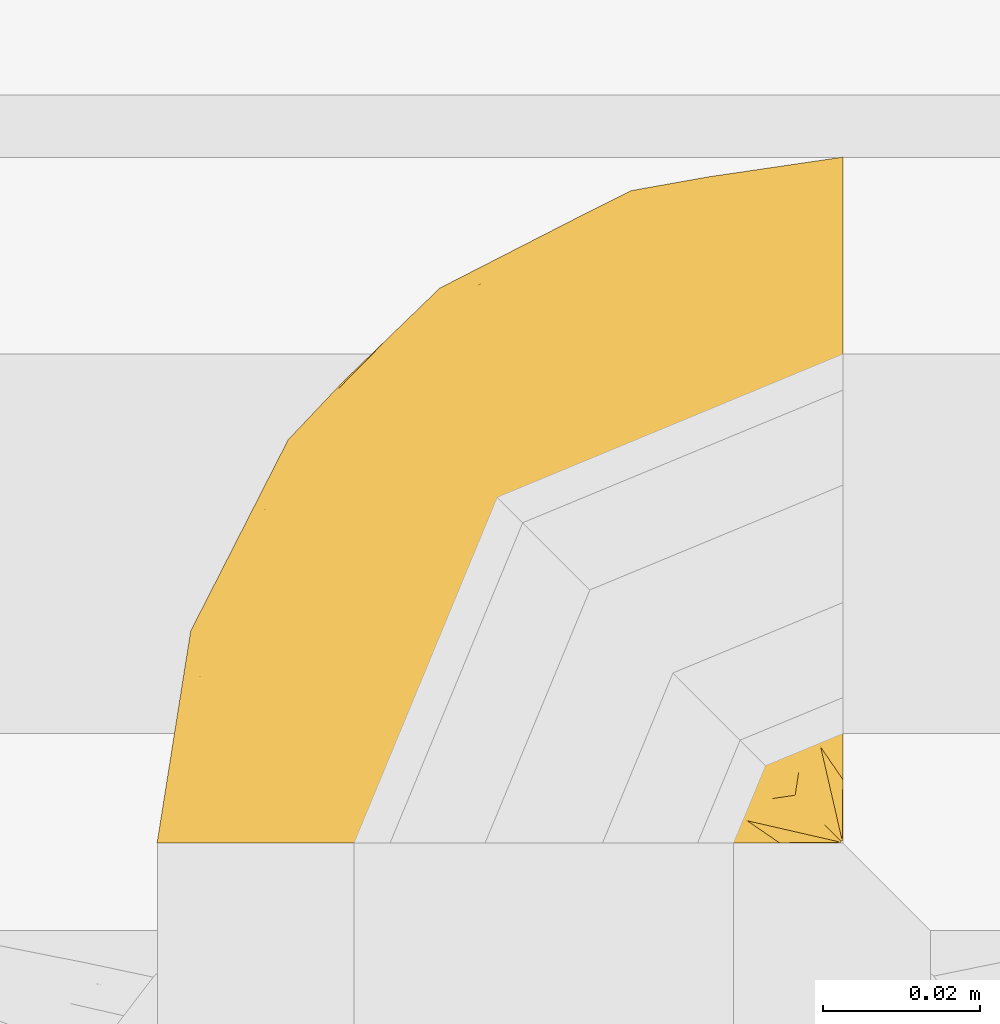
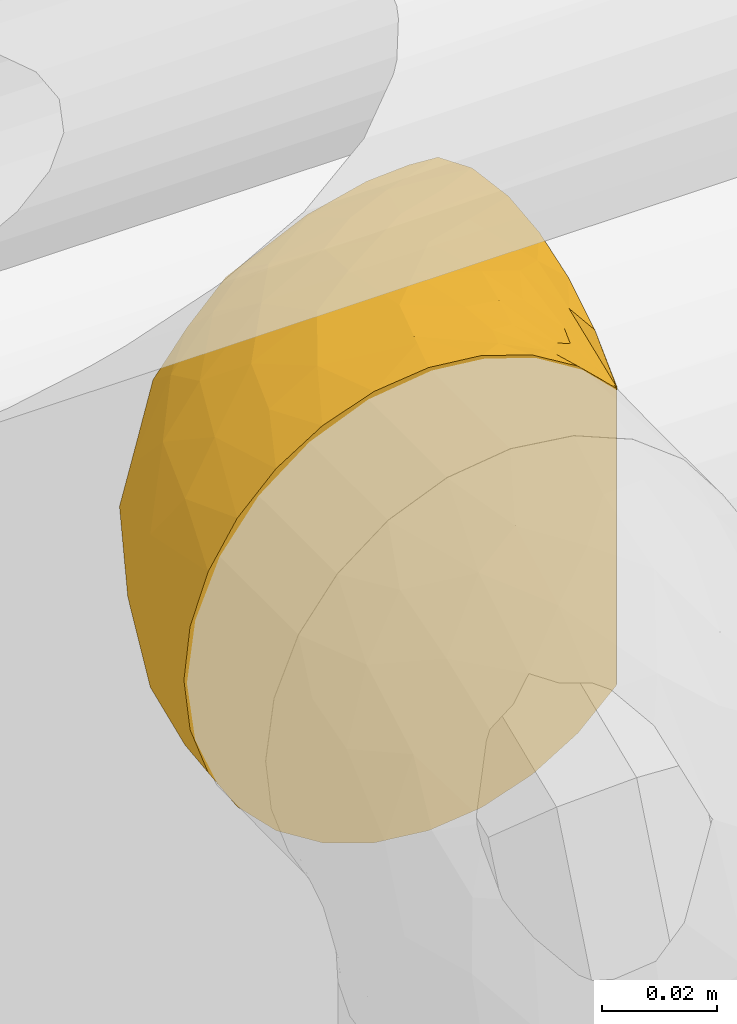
# One storey, part 46 of 94: 1 covering.
"""IFC2X3 building model written with IfcOpenShell, lengths in millimetres."""

import ifcopenshell
import ifcopenshell.guid

model = None  # the IFC model being written
_history = None  # IfcOwnerHistory: only IFC2X3 demands one
_inside = {}  # id of a spatial element -> (the spatial element, [elements in it])
_under = {}  # id of a project, library or spatial element -> (it, [spatial elements below it])
_declared = {}  # id of a project -> (the project, [libraries it declares])
_typed = {}  # id of a type object -> (the type object, [elements of that type])
_made_of = {}  # id of a material, layer set ... -> (it, [elements and type objects made of it])


def new_model(schema):
    """Start an empty IFC model of exactly this schema.

    Asked for "IFC4X3", IfcOpenShell would pick the latest addendum, in which some entities
    have other attributes; the version numbers below select the first issue.
    IFC2X3 requires an IfcOwnerHistory on every rooted entity: one is made here for all.
    """
    global model, _history
    if schema == "IFC4X3":
        model = ifcopenshell.file(schema_version=(4, 3, 0, 0))
    else:
        model = ifcopenshell.file(schema=schema)
    _inside.clear()
    _under.clear()
    _declared.clear()
    _typed.clear()
    _made_of.clear()
    _history = None
    if model.schema == "IFC2X3":
        org = make("IfcOrganization", Name="unknown")
        user = make(
            "IfcPersonAndOrganization",
            ThePerson=make("IfcPerson", FamilyName="unknown"),
            TheOrganization=org,
        )
        app = make(
            "IfcApplication",
            ApplicationDeveloper=org,
            Version="unknown",
            ApplicationFullName="unknown",
            ApplicationIdentifier="unknown",
        )
        _history = make(
            "IfcOwnerHistory",
            OwningUser=user,
            OwningApplication=app,
            ChangeAction="ADDED",
            CreationDate=0,
        )
    return model


def make(cls, **values):
    """One entity of the class cls with the attributes given. An attribute that is None is left unset."""
    return model.create_entity(
        cls, **{name: value for name, value in values.items() if value is not None}
    )


def entity(cls, *values):
    """Any entity or typed value of the class cls, its attributes in the order of the schema. None: left unset."""
    e = model.create_entity(cls)
    for i, value in enumerate(values):
        if value is not None:
            e[i] = value
    return e


def rooted(cls, **values):
    """An entity with a GlobalId (a new one), such as an element, a storey or a relation."""
    return make(cls, GlobalId=ifcopenshell.guid.new(), OwnerHistory=_history, **values)


def si_unit(unit_type, name, prefix=None):
    """IfcSIUnit, for example si_unit("LENGTHUNIT", "METRE", prefix="MILLI")."""
    return make("IfcSIUnit", UnitType=unit_type, Prefix=prefix, Name=name)


def converted_unit(unit_type, name, factor, base, dimensions=None, offset=None):
    """IfcConversionBasedUnit, such as the inch: factor (a typed value) times the base unit."""
    return make(
        "IfcConversionBasedUnit"
        if offset is None
        else "IfcConversionBasedUnitWithOffset",
        ConversionOffset=offset,
        Dimensions=None
        if dimensions is None
        else entity("IfcDimensionalExponents", *dimensions),
        UnitType=unit_type,
        Name=name,
        ConversionFactor=make(
            "IfcMeasureWithUnit", ValueComponent=factor, UnitComponent=base
        ),
    )


def derived_unit(unit_type, elements):
    """IfcDerivedUnit: a product of units, each with its exponent."""
    return make(
        "IfcDerivedUnit",
        Elements=[
            make("IfcDerivedUnitElement", Unit=unit, Exponent=power)
            for unit, power in elements
        ],
        UnitType=unit_type,
    )


def assignment(units):
    """IfcUnitAssignment: the units of a project."""
    return None if units is None else make("IfcUnitAssignment", Units=units)


def point(xyz):
    """IfcCartesianPoint."""
    return None if xyz is None else make("IfcCartesianPoint", Coordinates=xyz)


def direction(xyz):
    """IfcDirection."""
    return None if xyz is None else make("IfcDirection", DirectionRatios=xyz)


def frame(location, z_axis=None, x_axis=None):
    """IfcAxis2Placement3D, a coordinate frame: its origin and axes. An axis left out is left unset."""
    return make(
        "IfcAxis2Placement3D",
        Location=point(location),
        Axis=direction(z_axis),
        RefDirection=direction(x_axis),
    )


def origin():
    """The frame at (0, 0, 0) with its axes left unset."""
    return frame((0.0, 0.0, 0.0))


def place(relative_to, where):
    """IfcLocalPlacement: puts the frame where relative to a parent placement (None: the world)."""
    return make(
        "IfcLocalPlacement", PlacementRelTo=relative_to, RelativePlacement=where
    )


def context(
    kind, dimensions, precision=None, world=None, true_north=None, identifier=None
):
    """IfcGeometricRepresentationContext, for example the 3D "Model" context."""
    return make(
        "IfcGeometricRepresentationContext",
        ContextIdentifier=identifier,
        ContextType=kind,
        CoordinateSpaceDimension=dimensions,
        Precision=precision,
        WorldCoordinateSystem=world,
        TrueNorth=true_north,
    )


def subcontext(parent, identifier, kind, view, scale=None):
    """IfcGeometricRepresentationSubContext, for example "Body" below "Model"."""
    return make(
        "IfcGeometricRepresentationSubContext",
        ContextIdentifier=identifier,
        ContextType=kind,
        ParentContext=parent,
        TargetScale=scale,
        TargetView=view,
    )


def project(units=None, contexts=None):
    """IfcProject with its units and contexts."""
    return rooted(
        "IfcProject",
        Name="project",
        RepresentationContexts=contexts,
        UnitsInContext=assignment(units),
    )


def spatial(cls, under=None, at=None, **own):
    """A site, building, storey or space (cls), placed at a placement, below another one or the project."""
    s = rooted(cls, ObjectPlacement=at, **own)
    if under is not None:
        _under.setdefault(under.id(), (under, []))[1].append(s)
    return s


def faces_of(points, faces, orient=None, outer=None):
    """IfcFace entities. A face is a list of loops; a loop is a list of indices into points, from 0.

    orient and outer hold one flag for each loop. By default every Orientation is true, the
    first loop of a face is its IfcFaceOuterBound and the others are IfcFaceBound.
    """
    made = []
    for i, loops in enumerate(faces):
        bounds = []
        for j, loop in enumerate(loops):
            is_outer = j == 0 if outer is None else outer[i][j]
            bounds.append(
                make(
                    "IfcFaceOuterBound" if is_outer else "IfcFaceBound",
                    Bound=make("IfcPolyLoop", Polygon=[points[k] for k in loop]),
                    Orientation=True if orient is None else orient[i][j],
                )
            )
        made.append(make("IfcFace", Bounds=bounds))
    return made


def faceted_brep(points, faces, orient=None, outer=None, voids=None):
    """IfcFacetedBrep: a solid bounded by flat faces; with voids (closed shells), ...WithVoids."""
    shared = [point(p) for p in points]
    hull = make("IfcClosedShell", CfsFaces=faces_of(shared, faces, orient, outer))
    if voids is None:
        return make("IfcFacetedBrep", Outer=hull)
    return make(
        "IfcFacetedBrepWithVoids",
        Outer=hull,
        Voids=[
            make(cls, CfsFaces=faces_of(shared, fs, o, b)) for cls, fs, o, b in voids
        ],
    )


def shape(context_of_items, identifier, shape_type, items):
    """IfcShapeRepresentation: the items that make up one representation, for example the "Body"."""
    return make(
        "IfcShapeRepresentation",
        ContextOfItems=context_of_items,
        RepresentationIdentifier=identifier,
        RepresentationType=shape_type,
        Items=items,
    )


def material(Name=None, Category=None):
    """IfcMaterial."""
    return make("IfcMaterial", Name=Name, Category=Category)


def made_of(thing, what):
    """Note that an element or type object is made of a material, layer set ...; save() writes the relation."""
    if what is not None:
        _made_of.setdefault(what.id(), (what, []))[1].append(thing)
    return thing


def element(
    cls,
    number,
    at=None,
    inside=None,
    cuts=None,
    type_object=None,
    material=None,
    context=None,
    identifier="Body",
    shape_type=None,
    held_by="IfcProductDefinitionShape",
    body=None,
    shapes=None,
    **own,
):
    """One element of the class cls, such as IfcWall. Its Tag is "e" and its number.

    at: its placement. inside: the storey or other place that contains it. cuts: it is an
    opening in that element (IfcRelVoidsElement). A single representation is given by context,
    identifier, shape_type and body (its items); several are given by shapes. held_by: the class
    of the entity that holds the representations. save() writes the other relations.
    """
    e = rooted(cls, Tag="e%d" % number, ObjectPlacement=at, **own)
    if body is not None:
        shapes = [shape(context, identifier, shape_type, body)]
    if shapes is not None:
        e.Representation = make(held_by, Representations=shapes)
    if inside is not None:
        _inside.setdefault(inside.id(), (inside, []))[1].append(e)
    if cuts is not None:
        rooted(
            "IfcRelVoidsElement", RelatingBuildingElement=cuts, RelatedOpeningElement=e
        )
    if type_object is not None:
        _typed.setdefault(type_object.id(), (type_object, []))[1].append(e)
    return made_of(e, material)


def aggregate(whole, parts):
    """IfcRelAggregates: a whole, such as a stair, and the parts it consists of."""
    return rooted("IfcRelAggregates", RelatingObject=whole, RelatedObjects=parts)


def save(model, path):
    """Write the relations noted so far, then the file.

    IfcRelAggregates (storeys below a building ...), IfcRelContainedInSpatialStructure (elements
    in a storey), IfcRelDefinesByType, IfcRelAssociatesMaterial and IfcRelDeclares: one each for
    every whole, place, type object, material and project.
    """
    for whole, parts in _under.values():
        aggregate(whole, parts)
    for where, things in _inside.values():
        rooted(
            "IfcRelContainedInSpatialStructure",
            RelatedElements=things,
            RelatingStructure=where,
        )
    for kind, things in _typed.values():
        rooted("IfcRelDefinesByType", RelatedObjects=things, RelatingType=kind)
    for what, things in _made_of.values():
        rooted("IfcRelAssociatesMaterial", RelatedObjects=things, RelatingMaterial=what)
    for by, libraries in _declared.values():
        rooted("IfcRelDeclares", RelatingContext=by, RelatedDefinitions=libraries)
    model.write(path)


model = new_model("IFC2X3")

# Units and contexts
model_context = context("Model", 3, precision=0.01, world=origin(), true_north=direction((6.123031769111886e-17, 1.0)))
body_context = subcontext(model_context, "Body", "Model", "MODEL_VIEW")
ifc_project = project(units=[si_unit("LENGTHUNIT", "METRE", prefix="MILLI"), si_unit("AREAUNIT", "SQUARE_METRE"), si_unit("VOLUMEUNIT", "CUBIC_METRE"), converted_unit("PLANEANGLEUNIT", "DEGREE", entity("IfcRatioMeasure", 0.017453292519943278), si_unit("PLANEANGLEUNIT", "RADIAN"), dimensions=[0, 0, 0, 0, 0, 0, 0]), si_unit("MASSUNIT", "GRAM", prefix="KILO"), derived_unit("MASSDENSITYUNIT", [(si_unit("MASSUNIT", "GRAM", prefix="KILO"), 1), (si_unit("LENGTHUNIT", "METRE"), -3)]), derived_unit("IONCONCENTRATIONUNIT", [(si_unit("MASSUNIT", "GRAM", prefix="KILO"), 1), (si_unit("LENGTHUNIT", "METRE"), -3)]), derived_unit("MOMENTOFINERTIAUNIT", [(si_unit("LENGTHUNIT", "METRE"), 4)]), si_unit("TIMEUNIT", "SECOND"), si_unit("FREQUENCYUNIT", "HERTZ"), si_unit("THERMODYNAMICTEMPERATUREUNIT", "DEGREE_CELSIUS"), derived_unit("THERMALTRANSMITTANCEUNIT", [(si_unit("MASSUNIT", "GRAM", prefix="KILO"), 1), (si_unit("THERMODYNAMICTEMPERATUREUNIT", "KELVIN"), -1), (si_unit("TIMEUNIT", "SECOND"), -3)]), derived_unit("THERMALCONDUCTANCEUNIT", [(si_unit("MASSUNIT", "GRAM", prefix="KILO"), 1), (si_unit("THERMODYNAMICTEMPERATUREUNIT", "KELVIN"), -1), (si_unit("TIMEUNIT", "SECOND"), -3), (si_unit("LENGTHUNIT", "METRE"), 1)]), derived_unit("VOLUMETRICFLOWRATEUNIT", [(si_unit("LENGTHUNIT", "METRE"), 3), (si_unit("TIMEUNIT", "SECOND"), -1)]), derived_unit("MASSFLOWRATEUNIT", [(si_unit("MASSUNIT", "GRAM", prefix="KILO"), 1), (si_unit("TIMEUNIT", "SECOND"), -1)]), derived_unit("ROTATIONALFREQUENCYUNIT", [(si_unit("TIMEUNIT", "SECOND"), -1)]), si_unit("ELECTRICCURRENTUNIT", "AMPERE"), si_unit("ELECTRICVOLTAGEUNIT", "VOLT"), si_unit("POWERUNIT", "WATT"), si_unit("FORCEUNIT", "NEWTON", prefix="KILO"), si_unit("ILLUMINANCEUNIT", "LUX"), si_unit("LUMINOUSFLUXUNIT", "LUMEN"), si_unit("LUMINOUSINTENSITYUNIT", "CANDELA"), derived_unit("USERDEFINED", [(si_unit("MASSUNIT", "GRAM", prefix="KILO"), -1), (si_unit("LENGTHUNIT", "METRE"), -2), (si_unit("TIMEUNIT", "SECOND"), 3), (si_unit("LUMINOUSFLUXUNIT", "LUMEN"), 1)]), derived_unit("USERDEFINED", [(si_unit("MASSUNIT", "GRAM", prefix="KILO"), 1), (si_unit("TIMEUNIT", "SECOND"), -3), (si_unit("LENGTHUNIT", "METRE"), 3), (si_unit("ELECTRICCURRENTUNIT", "AMPERE"), -2)]), derived_unit("SOUNDPOWERUNIT", [(si_unit("MASSUNIT", "GRAM", prefix="KILO"), 1), (si_unit("TIMEUNIT", "SECOND"), -3), (si_unit("LENGTHUNIT", "METRE"), 2)]), derived_unit("SOUNDPRESSUREUNIT", [(si_unit("MASSUNIT", "GRAM", prefix="KILO"), 1), (si_unit("LENGTHUNIT", "METRE"), -1), (si_unit("TIMEUNIT", "SECOND"), -2)]), derived_unit("LINEARVELOCITYUNIT", [(si_unit("LENGTHUNIT", "METRE"), 1), (si_unit("TIMEUNIT", "SECOND"), -1)]), si_unit("PRESSUREUNIT", "PASCAL"), derived_unit("USERDEFINED", [(si_unit("MASSUNIT", "GRAM", prefix="KILO"), 1), (si_unit("LENGTHUNIT", "METRE"), -2), (si_unit("TIMEUNIT", "SECOND"), -2)]), derived_unit("LINEARFORCEUNIT", [(si_unit("MASSUNIT", "GRAM", prefix="KILO"), 1), (si_unit("TIMEUNIT", "SECOND"), -2)]), derived_unit("PLANARFORCEUNIT", [(si_unit("MASSUNIT", "GRAM", prefix="KILO"), 1), (si_unit("LENGTHUNIT", "METRE"), -1), (si_unit("TIMEUNIT", "SECOND"), -2)]), derived_unit("SPECIFICHEATCAPACITYUNIT", [(si_unit("THERMODYNAMICTEMPERATUREUNIT", "KELVIN"), -1), (si_unit("LENGTHUNIT", "METRE"), 2), (si_unit("TIMEUNIT", "SECOND"), -2)]), derived_unit("HEATINGVALUEUNIT", [(si_unit("LENGTHUNIT", "METRE"), 2), (si_unit("TIMEUNIT", "SECOND"), -2)]), derived_unit("VAPORPERMEABILITYUNIT", [(si_unit("LENGTHUNIT", "METRE"), -1), (si_unit("TIMEUNIT", "SECOND"), 1)]), derived_unit("DYNAMICVISCOSITYUNIT", [(si_unit("MASSUNIT", "GRAM", prefix="KILO"), 1), (si_unit("TIMEUNIT", "SECOND"), -1), (si_unit("LENGTHUNIT", "METRE"), -1)]), derived_unit("THERMALEXPANSIONCOEFFICIENTUNIT", [(si_unit("THERMODYNAMICTEMPERATUREUNIT", "KELVIN"), -1)]), derived_unit("MODULUSOFELASTICITYUNIT", [(si_unit("MASSUNIT", "GRAM", prefix="KILO"), 1), (si_unit("LENGTHUNIT", "METRE"), -1), (si_unit("TIMEUNIT", "SECOND"), -2)]), derived_unit("ISOTHERMALMOISTURECAPACITYUNIT", [(si_unit("LENGTHUNIT", "METRE"), 3), (si_unit("MASSUNIT", "GRAM", prefix="KILO"), -1)]), derived_unit("MOISTUREDIFFUSIVITYUNIT", [(si_unit("TIMEUNIT", "SECOND"), -1), (si_unit("LENGTHUNIT", "METRE"), 2)])], contexts=[model_context])

# Site, building, storey
site_placement = place(None, origin())
site = spatial("IfcSite", under=ifc_project, at=site_placement, Name="Default", CompositionType="ELEMENT")
building_placement = place(site_placement, origin())
building = spatial("IfcBuilding", under=site, at=building_placement, CompositionType="ELEMENT")
storey_placement = place(building_placement, origin())
storey = spatial("IfcBuildingStorey", under=building, at=storey_placement, Name="Niveau 0", CompositionType="ELEMENT", Elevation=0.0)

# Covering
ifc_material = material(Name="Isolation - Laine minérale")
covering_placement = place(storey_placement, frame((-8622.89113779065, 9987.250352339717, 2600.745272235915)))
element("IfcCovering", 1, at=covering_placement, inside=storey, material=ifc_material, Name="Isolation des canalisations:Laine minérale", ObjectType="Isolation des canalisations:Laine minérale", PredefinedType="INSULATION", context=body_context, shape_type="Brep", body=[
    faceted_brep([(29.41213456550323, 1.5952722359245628, -6.466386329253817), (20.093252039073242, 1.5952722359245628, -12.324234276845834), (12.312548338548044, 1.5952722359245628, -20.107905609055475), (6.459227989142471, 1.5952722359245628, -29.426998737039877), (2.826140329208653, 1.5952722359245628, -39.814613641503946), (1.5952722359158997, 1.5952722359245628, -50.7452722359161), (2.828812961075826, 1.5952722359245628, -61.68764083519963), (6.466386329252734, 1.5952722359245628, -72.07840990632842), (12.324234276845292, 1.5952722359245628, -81.39729243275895), (20.107905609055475, 1.5952722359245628, -89.17799613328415), (29.426998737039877, 1.5952722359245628, -95.03131648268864), (39.814613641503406, 1.5952722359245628, -98.664404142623), (50.74527223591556, 1.5952722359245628, -99.8952722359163), (61.40435822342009, 1.5952722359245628, -98.72554303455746), (71.55257335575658, 1.5952722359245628, -95.27367575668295), (80.70896636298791, 1.5952722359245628, -89.70550239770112), (88.4316528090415, 1.5952722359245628, -82.2961711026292), (88.4316528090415, 1.5952722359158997, -79.85190220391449), (88.4316528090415, 1.5952722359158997, -78.07484973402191), (88.4316528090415, 1.5952722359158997, -76.2977972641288), (88.43165280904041, 1.5952722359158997, -74.79820380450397), (88.4316528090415, 1.5952722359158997, -73.2986103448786), (88.43165280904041, 1.5952722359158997, -70.29942342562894), (88.4316528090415, 1.5952722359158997, -67.30023650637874), (88.43165280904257, 1.5952722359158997, -64.30104958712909), (88.43165280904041, 1.5952722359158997, -61.301862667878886), (88.43165280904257, 1.5952722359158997, -59.80226920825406), (88.4316528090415, 1.5952722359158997, -58.30267574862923), (88.4316528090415, 1.5952722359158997, -55.858406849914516), (88.4316528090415, 1.5952722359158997, -53.41413795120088), (88.4316528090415, 1.5952722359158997, -50.96986905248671), (88.43165280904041, 1.5952722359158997, -48.52560015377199), (88.43165280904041, 1.5952722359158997, -46.08133125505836), (88.43165280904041, 1.5952722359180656, -43.63706235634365), (88.43165280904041, 1.5952722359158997, -41.19279345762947), (88.4316528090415, 1.5952722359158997, -38.74852455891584), (88.4316528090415, 1.5952722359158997, -36.30425566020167), (88.4316528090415, 1.5952722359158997, -33.85998676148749), (88.4316528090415, 1.5952722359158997, -31.41571786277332), (88.4316528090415, 1.5952722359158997, -28.971448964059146), (88.4316528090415, 1.5952722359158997, -26.52718006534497), (88.4316528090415, 1.5952722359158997, -24.082911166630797), (88.4316528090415, 1.5952722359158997, -21.638642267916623), (88.4316528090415, 1.5952722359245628, -19.194373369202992), (80.69235262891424, 1.5952722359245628, -11.772270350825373), (71.53113811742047, 1.5952722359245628, -6.2068587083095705), (61.3839004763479, 1.5952722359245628, -2.760461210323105), (50.74527223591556, 1.5952722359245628, -1.5952722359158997), (39.80290363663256, 1.5952722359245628, -2.828812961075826), (88.74527223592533, 1.908891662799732, -82.29617110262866), (88.74527223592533, 9.641963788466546, -89.71348765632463), (88.74527223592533, 18.798688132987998, -95.27868204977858), (88.74527223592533, 28.94385431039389, -98.7272458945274), (88.74527223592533, 39.59527223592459, -99.89527223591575), (88.74527223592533, 52.31622830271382, -98.22052659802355), (88.74527223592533, 64.1702722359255, -93.31042083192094), (88.74527223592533, 74.34957053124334, -85.49957053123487), (88.74527223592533, 82.16042083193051, -75.32027223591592), (88.74527223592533, 87.07052659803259, -63.46622830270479), (88.74527223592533, 88.74527223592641, -50.7452722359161), (88.74527223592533, 87.07052659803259, -38.02431616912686), (88.74527223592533, 82.16042083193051, -26.17027223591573), (88.74527223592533, 74.34957053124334, -15.990973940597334), (88.74527223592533, 64.1702722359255, -8.180123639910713), (88.74527223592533, 52.31622830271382, -3.2700178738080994), (88.74527223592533, 39.59527223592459, -1.5952722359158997), (88.74527223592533, 28.94385431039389, -2.7632985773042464), (88.74527223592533, 18.798688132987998, -6.211862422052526), (88.74527223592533, 9.641963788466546, -11.777056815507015), (88.74527223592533, 1.908891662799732, -19.19437336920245), (88.74527223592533, 1.908891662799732, -21.63864226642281), (88.74527223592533, 1.908891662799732, -23.138235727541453), (88.74527223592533, 1.908891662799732, -25.110166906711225), (88.74527223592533, 1.908891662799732, -27.082098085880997), (88.74527223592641, 1.908891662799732, -29.05402926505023), (88.74527223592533, 1.908891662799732, -31.02596044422), (88.74527223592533, 1.908891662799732, -32.99789162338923), (88.74527223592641, 1.908891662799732, -34.969822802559), (88.74527223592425, 1.908891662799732, -36.94175398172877), (88.74527223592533, 1.908891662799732, -38.913685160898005), (88.74527223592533, 1.908891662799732, -40.88561634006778), (88.74527223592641, 1.908891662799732, -42.85754751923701), (88.74527223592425, 1.908891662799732, -44.82947869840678), (88.74527223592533, 1.908891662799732, -46.80140987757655), (88.74527223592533, 1.908891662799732, -48.773341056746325), (88.74527223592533, 1.908891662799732, -50.74527223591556), (88.74527223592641, 1.908891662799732, -52.71720341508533), (88.74527223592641, 1.908891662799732, -54.6891345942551), (88.74527223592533, 1.908891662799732, -56.661065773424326), (88.74527223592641, 1.908891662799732, -58.632996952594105), (88.74527223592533, 1.908891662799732, -60.60492813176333), (88.74527223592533, 1.908891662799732, -62.5768593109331), (88.74527223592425, 1.908891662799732, -64.54879049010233), (88.74527223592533, 1.908891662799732, -66.5207216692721), (88.74527223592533, 1.908891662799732, -69.51990859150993), (88.74527223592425, 1.908891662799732, -72.51909551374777), (88.74527223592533, 1.908891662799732, -74.96336441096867), (88.74527223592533, 1.908891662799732, -77.40763330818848), (88.74527223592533, 1.908891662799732, -79.85190220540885), (88.53090125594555, 1.8241875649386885, -47.73720476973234), (88.52210831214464, 1.8156242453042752, -49.65777912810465), (88.52122178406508, 1.8147227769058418, -40.01764283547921), (88.52777998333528, 1.8212241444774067, -37.92771907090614), (88.5409253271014, 1.8331787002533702, -53.48951745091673), (88.53506454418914, 1.828016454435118, -24.240550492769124), (88.49130573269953, 1.7792781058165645, -20.791406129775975), (88.5181029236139, 1.8114926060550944, -59.05247302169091), (88.52350981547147, 1.817034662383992, -78.62976787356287), (88.52548149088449, 1.81898896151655, -76.79032803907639), (88.5165327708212, 1.8098308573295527, -30.120454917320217), (88.52674320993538, 1.820221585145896, -28.08670561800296), (88.50469006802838, 1.7964621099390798, -57.08054182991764), (88.52964682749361, 1.8230063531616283, -63.562825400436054), (88.53317608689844, 1.826296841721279, -61.67745907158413), (88.51585328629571, 1.8091041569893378, -65.53475654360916), (88.52914218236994, 1.8225274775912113, -51.73123795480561), (88.52350981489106, 1.817034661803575, -22.3884388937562), (88.52591800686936, 1.8194169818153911, -80.4629694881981), (88.53664906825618, 1.8294378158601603, -45.815443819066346), (88.5374788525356, 1.8301744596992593, -33.98385679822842), (88.53273195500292, 1.825888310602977, -35.87599747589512), (88.53426299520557, 1.8272900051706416, -67.38596354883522), (88.53370000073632, 1.8267767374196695, -43.93836928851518), (88.53493173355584, 1.8278964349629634, -26.096132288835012), (88.52350981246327, 1.8170346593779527, -19.19437336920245), (88.4948797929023, 1.747915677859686, -19.194373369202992), (88.46624977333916, 1.6787966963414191, -19.194373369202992), (88.52350981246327, 1.8170346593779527, -82.29617110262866), (88.59262879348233, 1.845664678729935, -82.2961711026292), (88.66174777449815, 1.8742946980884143, -82.2961711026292), (88.51000647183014, 1.8026539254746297, -69.27838714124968), (88.53042484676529, 1.8237404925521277, -32.054952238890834), (88.52246762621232, 1.8159875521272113, -55.242256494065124), (88.52470424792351, 1.8182226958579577, -41.99993111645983), (88.50579329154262, 1.7977740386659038, -72.07129245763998), (88.52744143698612, 1.8208977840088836, -74.04840730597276), (88.6617477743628, 1.8742946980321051, -19.194373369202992), (88.59262879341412, 1.8456646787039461, -19.194373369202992), (88.46624977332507, 1.6787966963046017, -82.2961711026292), (88.49487979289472, 1.7479156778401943, -82.2961711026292), (85.22080157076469, 23.495219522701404, -97.28026065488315), (85.93611072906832, 13.747756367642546, -92.74636463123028), (81.07807843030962, 22.409779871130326, -97.28026068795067), (83.13289242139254, 10.562522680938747, -91.53496062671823), (79.24527223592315, 37.049754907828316, -99.8952722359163), (81.28890223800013, 37.59734391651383, -99.8952722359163), (55.83630689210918, 20.595272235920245, -99.8952722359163), (66.39553001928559, 16.02014974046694, -98.55504664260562), (67.94040403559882, 9.26167767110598, -97.27709237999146), (69.74527223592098, 34.50423757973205, -99.8952722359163), (80.67378389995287, 9.667897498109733, -92.08523869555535), (79.78892094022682, 7.2029124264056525, -91.52705697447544), (74.32109358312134, 23.944746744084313, -98.554902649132), (66.85470593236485, 5.119390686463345, -97.27709230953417), (76.60336361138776, 4.4028932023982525, -92.73988957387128), (79.64911936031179, 17.541506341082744, -95.7999166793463), (52.74320051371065, 9.051642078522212, -99.8952722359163), (53.290789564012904, 11.095272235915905, -99.89527223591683), (73.61168493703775, 16.728859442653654, -97.0079248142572), (62.79078956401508, 27.549754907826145, -99.8952722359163), (73.87988529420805, 12.071559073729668, -95.72448717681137), (75.3291367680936, 47.623950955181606, -98.87881941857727), (65.91074185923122, 44.00144112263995, -98.83301276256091), (53.84761415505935, 58.899698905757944, -90.35896612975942), (59.13651173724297, 72.66771487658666, -80.6658965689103), (71.16612245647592, 67.20155656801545, -89.73858973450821), (67.0054527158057, 54.07984229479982, -96.15395204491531), (78.8805128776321, 57.54110754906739, -96.15395161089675), (37.51978749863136, 72.10110329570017, -50.7452722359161), (61.8144411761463, 84.47984763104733, -50.7452722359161), (53.875201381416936, 80.24801351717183, -61.15080493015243), (25.78494399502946, 13.851436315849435, -92.3663011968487), (36.24418276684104, 15.165285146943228, -97.13949915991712), (29.562882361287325, 60.77765845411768, -68.84359020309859), (30.770681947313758, 55.38583609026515, -77.72163513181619), (15.292222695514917, 43.89737524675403, -65.87522637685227), (71.31385843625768, 86.12648113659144, -59.79441061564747), (47.24102741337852, 73.23168363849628, -70.98072673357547), (43.50389303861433, 64.74738573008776, -79.7421140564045), (75.28985257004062, 77.40373146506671, -80.66589650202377), (67.10273039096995, 82.14716981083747, -69.55416171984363), (37.099200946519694, 52.829115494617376, -85.50619835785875), (44.51517687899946, 48.878965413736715, -91.98084112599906), (33.70477633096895, 40.607220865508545, -90.08477530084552), (44.05169469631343, 28.769953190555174, -97.76701228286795), (30.04408126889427, 27.448445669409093, -92.36630165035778), (18.31233818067, 19.800365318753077, -85.5061967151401), (5.8606968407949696, 28.52610329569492, -50.7452722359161), (7.041406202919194, 22.71562192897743, -66.98519337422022), (25.61446965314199, 42.31748570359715, -82.95460966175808), (15.886915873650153, 33.68382770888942, -76.90235033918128), (10.600409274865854, 16.806973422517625, -76.90235057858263), (38.50378416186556, 71.07858054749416, -62.41468564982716), (25.345180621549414, 60.332491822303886, -59.14435954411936), (53.16350413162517, 33.37332146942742, -98.92729244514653), (18.239441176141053, 52.82075697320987, -50.7452722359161), (52.69469876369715, 43.46542968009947, -96.76809515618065), (58.175892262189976, 79.20017463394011, -31.93638344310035), (71.7009127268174, 86.24488809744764, -41.905436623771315), (54.574333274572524, 80.83807017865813, -41.62511866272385), (42.49805076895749, 72.52816019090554, -35.352647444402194), (75.06235489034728, 83.87397883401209, -31.936382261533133), (24.525141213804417, 35.798660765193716, -15.997222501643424), (25.786342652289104, 48.02046276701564, -22.50195470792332), (15.878231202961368, 33.68736739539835, -24.603113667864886), (37.089792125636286, 52.83844921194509, -15.997599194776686), (35.71336208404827, 59.75598123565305, -23.203879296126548), (36.23150879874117, 15.17001623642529, -4.355753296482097), (70.53804152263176, 45.55141709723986, -2.5375085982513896), (69.74527223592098, 34.50423757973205, -1.5952722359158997), (79.24527223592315, 37.049754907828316, -1.5952722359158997), (7.036299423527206, 22.71467774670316, -34.51880576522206), (69.24086116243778, 76.07714087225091, -20.82464795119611), (30.03051209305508, 27.454651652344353, -9.133617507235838), (25.770245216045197, 13.854008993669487, -9.133617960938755), (76.87540408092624, 68.47065883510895, -11.751955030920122), (74.00473445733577, 56.45843349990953, -5.336592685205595), (48.41047025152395, 68.0885450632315, -21.865705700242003), (62.62553049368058, 64.29272071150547, -11.751954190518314), (31.2207767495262, 66.01125638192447, -41.9823852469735), (29.560345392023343, 60.78019542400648, -32.65601578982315), (79.82666983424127, 48.01911236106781, -2.477909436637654), (10.591274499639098, 16.809109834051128, -24.603113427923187), (15.287247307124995, 43.900853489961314, -35.63402191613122), (18.299506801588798, 19.803681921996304, -15.997600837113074), (44.04987097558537, 28.78672684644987, -3.726659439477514), (55.83630689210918, 20.595272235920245, -1.5952722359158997), (54.23536248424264, 35.48506655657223, -2.7012349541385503), (62.79078956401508, 27.549754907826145, -1.5952722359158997), (52.74320051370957, 9.051642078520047, -1.5952722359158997), (53.290789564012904, 11.095272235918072, -1.5952722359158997), (48.41211537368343, 53.16291239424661, -9.986684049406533), (64.14304703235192, 52.0530845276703, -5.0637132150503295), (40.10640265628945, 41.40103739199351, -8.340625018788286), (62.89073418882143, 40.721221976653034, -2.407172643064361), (47.67277833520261, 60.91677547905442, -15.399468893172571), (55.38955823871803, 45.94061161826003, -4.812375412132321), (81.07807840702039, 22.409778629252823, -4.210284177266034), (78.26566497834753, 16.464254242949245, -5.763920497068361), (74.3207291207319, 23.943292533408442, -2.935886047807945), (85.22080145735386, 23.49521891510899, -4.210284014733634), (85.93611080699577, 13.747755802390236, -8.744180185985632), (83.13257230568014, 10.564867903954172, -9.954133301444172), (82.6819800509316, 7.656624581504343, -11.377788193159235), (73.61706381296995, 16.72348133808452, -4.485349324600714), (79.75777141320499, 7.216517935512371, -9.940890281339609), (67.91845358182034, 9.263185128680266, -4.2062740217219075), (66.83334757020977, 5.119593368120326, -4.206273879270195), (76.58449008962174, 4.4058785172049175, -8.739069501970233), (66.39770760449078, 16.01862728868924, -2.9361309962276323), (72.78382599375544, 10.692146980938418, -5.684713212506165)], [[[0, 1, 2, 3, 4, 5, 6, 7, 8, 9, 10, 11, 12, 13, 14, 15, 16, 17, 18, 19, 20, 21, 22, 23, 24, 25, 26, 27, 28, 29, 30, 31, 32, 33, 34, 35, 36, 37, 38, 39, 40, 41, 42, 43, 44, 45, 46, 47, 48]], [[49, 50, 51, 52, 53, 54, 55, 56, 57, 58, 59, 60, 61, 62, 63, 64, 65, 66, 67, 68, 69, 70, 71, 72, 73, 74, 75, 76, 77, 78, 79, 80, 81, 82, 83, 84, 85, 86, 87, 88, 89, 90, 91, 92, 93, 94, 95, 96, 97, 98]], [[99, 100, 84]], [[101, 102, 35]], [[86, 103, 87]], [[72, 71, 104]], [[105, 70, 69]], [[27, 26, 106]], [[18, 107, 108]], [[109, 74, 110]], [[28, 27, 111]], [[25, 112, 113]], [[108, 97, 96]], [[114, 93, 92]], [[103, 86, 115]], [[97, 107, 98]], [[116, 71, 70]], [[107, 17, 117]], [[79, 102, 101]], [[99, 118, 32]], [[77, 119, 120]], [[121, 93, 114]], [[112, 91, 113]], [[89, 111, 106]], [[40, 39, 110]], [[107, 97, 108]], [[32, 118, 122]], [[92, 91, 112]], [[37, 120, 119]], [[85, 115, 86]], [[70, 105, 116]], [[72, 123, 73]], [[105, 124, 125, 126, 43]], [[117, 17, 16]], [[41, 116, 42]], [[117, 127, 128, 129, 49]], [[110, 123, 40]], [[42, 116, 105]], [[121, 23, 130]], [[24, 114, 112]], [[114, 24, 23]], [[104, 123, 72]], [[92, 112, 114]], [[104, 116, 41]], [[24, 112, 25]], [[110, 73, 123]], [[36, 120, 37]], [[40, 123, 41]], [[75, 74, 109]], [[131, 76, 75]], [[119, 131, 37]], [[109, 110, 39]], [[109, 39, 38]], [[74, 73, 110]], [[123, 104, 41]], [[116, 104, 71]], [[26, 25, 113]], [[113, 90, 106]], [[88, 87, 132]], [[113, 106, 26]], [[77, 76, 119]], [[132, 111, 88]], [[106, 111, 27]], [[132, 28, 111]], [[88, 111, 89]], [[89, 106, 90]], [[113, 91, 90]], [[131, 119, 76]], [[38, 37, 131]], [[120, 36, 102]], [[131, 109, 38]], [[109, 131, 75]], [[79, 78, 102]], [[78, 120, 102]], [[78, 77, 120]], [[122, 81, 133]], [[36, 35, 102]], [[33, 122, 133]], [[80, 79, 101]], [[34, 101, 35]], [[132, 29, 28]], [[81, 80, 133]], [[29, 103, 115]], [[30, 29, 115]], [[87, 103, 132]], [[100, 115, 85]], [[31, 30, 100]], [[115, 100, 30]], [[32, 31, 99]], [[118, 82, 122]], [[100, 85, 84]], [[99, 83, 118]], [[82, 118, 83]], [[33, 32, 122]], [[83, 99, 84]], [[100, 99, 31]], [[34, 33, 133]], [[122, 82, 81]], [[133, 101, 34]], [[101, 133, 80]], [[134, 95, 94]], [[23, 121, 114]], [[132, 103, 29]], [[121, 94, 93]], [[94, 121, 130]], [[98, 107, 117]], [[108, 20, 19, 18]], [[21, 135, 134]], [[20, 135, 21]], [[134, 135, 95]], [[108, 96, 135]], [[108, 135, 20]], [[135, 96, 95]], [[134, 22, 21]], [[130, 22, 134]], [[42, 105, 43]], [[105, 69, 136, 137, 124]], [[98, 117, 49]], [[117, 16, 138, 139, 127]], [[18, 17, 107]], [[94, 130, 134]], [[22, 130, 23]], [[140, 141, 142]], [[143, 129, 128, 127]], [[52, 144, 145, 53]], [[146, 147, 148]], [[142, 149, 144]], [[150, 127, 151]], [[51, 140, 52]], [[142, 152, 149]], [[52, 140, 144]], [[129, 143, 141]], [[14, 13, 153]], [[148, 151, 154]], [[155, 141, 143]], [[151, 138, 154]], [[14, 153, 154]], [[16, 15, 138]], [[13, 12, 156, 157]], [[152, 155, 158]], [[159, 158, 147]], [[157, 148, 153]], [[14, 154, 15]], [[50, 49, 129]], [[50, 129, 141]], [[141, 51, 50]], [[160, 148, 147]], [[146, 148, 157]], [[138, 15, 154]], [[150, 158, 155]], [[151, 127, 139, 138]], [[141, 140, 51]], [[144, 140, 142]], [[157, 153, 13]], [[154, 153, 148]], [[149, 152, 159]], [[160, 147, 158]], [[147, 146, 159]], [[155, 152, 142]], [[159, 152, 158]], [[127, 150, 143]], [[160, 150, 151]], [[150, 160, 158]], [[148, 160, 151]], [[141, 155, 142]], [[155, 143, 150]], [[156, 12, 11]], [[161, 149, 162]], [[163, 164, 165]], [[166, 167, 161]], [[168, 169, 170]], [[55, 165, 56]], [[171, 172, 10]], [[173, 174, 175]], [[58, 176, 59]], [[173, 177, 178]], [[179, 57, 56]], [[55, 167, 165]], [[170, 180, 177]], [[57, 179, 180]], [[167, 55, 54]], [[181, 182, 183]], [[184, 146, 172]], [[172, 185, 184]], [[186, 185, 171]], [[186, 9, 8]], [[172, 146, 157, 156]], [[172, 11, 10]], [[173, 178, 174]], [[6, 187, 188]], [[189, 186, 190]], [[191, 186, 8]], [[175, 190, 188]], [[168, 192, 193]], [[189, 190, 174]], [[57, 180, 58]], [[8, 7, 191]], [[188, 7, 6]], [[6, 5, 187]], [[190, 191, 188]], [[159, 194, 162]], [[175, 187, 195]], [[177, 180, 164]], [[10, 9, 171]], [[176, 180, 170]], [[156, 11, 172]], [[163, 165, 166]], [[179, 165, 164]], [[54, 53, 145]], [[185, 189, 183]], [[184, 196, 194]], [[188, 191, 7]], [[186, 191, 190]], [[186, 171, 9]], [[172, 171, 185]], [[187, 175, 188]], [[193, 175, 195]], [[196, 163, 166]], [[163, 181, 178]], [[162, 166, 161]], [[184, 185, 183]], [[178, 177, 164]], [[177, 192, 170]], [[177, 173, 192]], [[176, 170, 169]], [[59, 176, 169]], [[58, 180, 176]], [[193, 192, 173]], [[168, 170, 192]], [[175, 193, 173]], [[168, 193, 195]], [[163, 178, 164]], [[184, 194, 146]], [[178, 181, 174]], [[189, 174, 181]], [[175, 174, 190]], [[183, 189, 181]], [[186, 189, 185]], [[182, 181, 163]], [[183, 182, 184]], [[163, 196, 182]], [[184, 182, 196]], [[165, 179, 56]], [[180, 179, 164]], [[161, 54, 145]], [[165, 167, 166]], [[54, 161, 167]], [[161, 145, 144, 149]], [[159, 162, 149]], [[196, 166, 162]], [[162, 194, 196]], [[146, 194, 159]], [[197, 198, 199]], [[59, 169, 198]], [[197, 199, 200]], [[198, 197, 201]], [[202, 203, 204]], [[61, 60, 201]], [[205, 206, 203]], [[0, 48, 207]], [[208, 209, 210]], [[187, 4, 211]], [[201, 212, 61]], [[213, 214, 207]], [[62, 215, 63]], [[63, 215, 216]], [[3, 211, 4]], [[217, 218, 212]], [[219, 220, 200]], [[216, 208, 221]], [[3, 2, 222]], [[63, 216, 64]], [[62, 61, 212]], [[211, 3, 222]], [[5, 4, 187]], [[217, 197, 200]], [[203, 223, 204]], [[2, 1, 224]], [[225, 213, 207]], [[204, 222, 224]], [[1, 0, 214]], [[204, 224, 202]], [[207, 226, 225]], [[227, 226, 228]], [[223, 211, 204]], [[214, 224, 1]], [[202, 224, 213]], [[48, 47, 229]], [[207, 229, 230, 226]], [[211, 223, 187]], [[218, 231, 232]], [[48, 229, 207]], [[205, 233, 231]], [[233, 213, 225]], [[217, 212, 197]], [[215, 212, 218]], [[228, 234, 227]], [[233, 205, 202]], [[208, 234, 209]], [[64, 221, 65]], [[235, 205, 231]], [[207, 214, 0]], [[224, 214, 213]], [[224, 222, 2]], [[211, 222, 204]], [[219, 223, 220]], [[187, 223, 195]], [[227, 233, 225]], [[234, 228, 209]], [[231, 233, 236]], [[221, 208, 210]], [[232, 208, 216]], [[65, 221, 210]], [[216, 221, 64]], [[233, 202, 213]], [[203, 202, 205]], [[205, 235, 206]], [[223, 203, 220]], [[200, 206, 217]], [[220, 203, 206]], [[232, 231, 236]], [[235, 218, 217]], [[212, 215, 62]], [[216, 215, 218]], [[218, 232, 216]], [[234, 232, 236]], [[232, 234, 208]], [[234, 236, 227]], [[233, 227, 236]], [[226, 227, 225]], [[198, 201, 60]], [[212, 201, 197]], [[59, 198, 60]], [[198, 169, 199]], [[169, 168, 199]], [[219, 200, 199]], [[219, 199, 168]], [[200, 220, 206]], [[168, 195, 219]], [[223, 219, 195]], [[218, 235, 231]], [[206, 235, 217]], [[66, 65, 210]], [[209, 237, 210]], [[238, 237, 239]], [[67, 240, 241]], [[242, 136, 241]], [[243, 137, 242]], [[243, 244, 245]], [[66, 240, 67]], [[136, 69, 68]], [[136, 68, 241]], [[246, 226, 230]], [[67, 241, 68]], [[210, 237, 240]], [[45, 247, 46]], [[209, 239, 237]], [[246, 247, 248]], [[46, 247, 230]], [[249, 250, 244]], [[239, 228, 244]], [[226, 246, 249]], [[250, 248, 245]], [[44, 43, 126]], [[237, 242, 241]], [[248, 45, 44]], [[44, 126, 248]], [[46, 230, 229, 47]], [[245, 126, 125]], [[126, 245, 248]], [[243, 124, 137]], [[210, 240, 66]], [[241, 240, 237]], [[248, 247, 45]], [[230, 247, 246]], [[226, 249, 228]], [[238, 239, 244]], [[239, 209, 228]], [[250, 249, 246]], [[228, 249, 244]], [[243, 242, 238]], [[136, 242, 137]], [[124, 243, 125]], [[125, 243, 245]], [[243, 238, 244]], [[237, 238, 242]], [[248, 250, 246]], [[244, 250, 245]]]),
])

save(model, "model.ifc")
